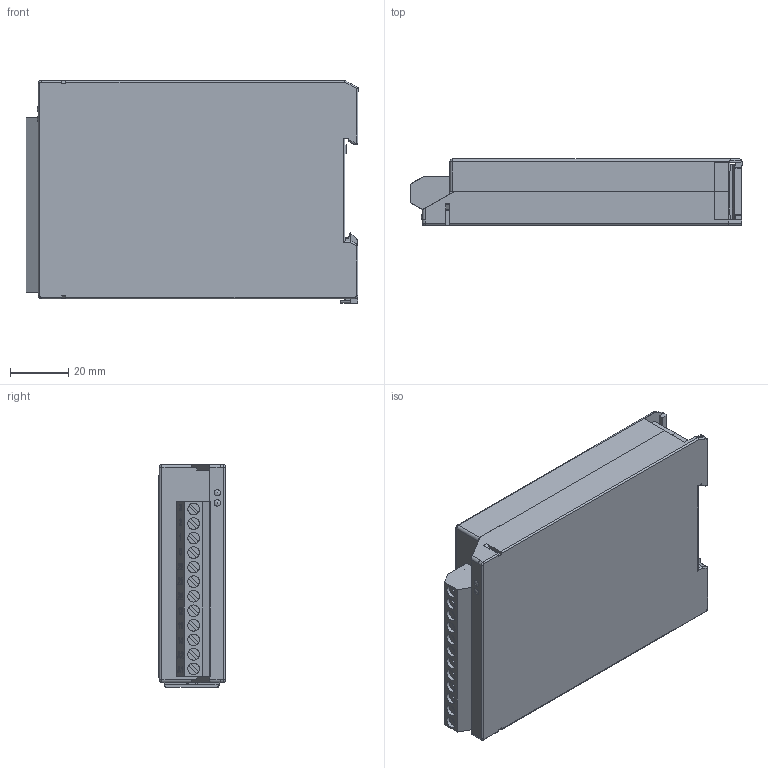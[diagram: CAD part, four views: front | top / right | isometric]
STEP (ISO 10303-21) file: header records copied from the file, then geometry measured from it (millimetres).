
FILE_DESCRIPTION (( 'STEP AP214' ), '1' );
FILE_NAME ('12440-1903-00_STW20K_3D.STEP', '2014-10-10T06:34:13', ( '' ), ( '' ), 'SwSTEP 2.0', 'SolidWorks 2014', '' );
FILE_SCHEMA (( 'AUTOMOTIVE_DESIGN' ));
Length unit declared in the file: millimetre
Products named in the file (9): 1045 1920 K-Deckel; 12440-19xx_Unterteil; 12440-1903-00_STW20K_3D; 12440-1203-00 Klemme STW20K_3D; 31147112; 12440-1200-00_STW20K_3D; pan head cross recess screw_din_ISO 7045 - M3 x 4 - Z --- 4N; K-Riegel; K-Leiterpklatte 60 lang
Assembly tree (8 placements, depth 2):
  12440-1903-00_STW20K_3D
    12440-19xx_Unterteil
    1045 1920 K-Deckel
    K-Leiterpklatte 60 lang
    K-Riegel
    pan head cross recess screw_din_ISO 7045 - M3 x 4 - Z --- 4N
    12440-1200-00_STW20K_3D
    31147112
    12440-1203-00 Klemme STW20K_3D
Bounding box: 114.22 x 22.91 x 76.65 mm (x, y, z)
Volume: 51371.6 mm3; surface area: 64328.6 mm2
Topology: 275 solids, 275 shells, 3438 faces, 8288 edges, 5450 vertices
Faces by surface type: plane 2679, bspline 502, cylinder 188, cone 25, sphere 22, torus 22
Full cylindrical faces by diameter (mm): 1 x12, 1.5 x7, 2.8 x2, 3 x12, 3.1 x12, 3.6 x1, 4 x12, 4.2 x1, 5.6 x1, 6 x1, 6.8 x1, 7 x1, 7.2 x1, 9 x1
Entity records: 114822 total; most frequent: CARTESIAN_POINT 32583, ORIENTED_EDGE 16296, DIRECTION 13349, EDGE_CURVE 8148, VECTOR 6643, LINE 6643, VERTEX_POINT 5423, EDGE_LOOP 3753
